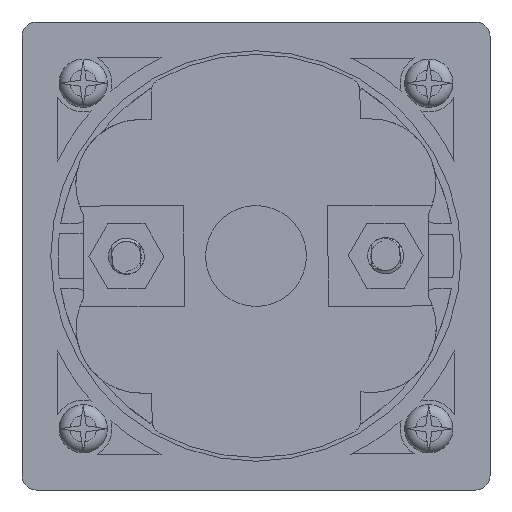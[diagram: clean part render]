
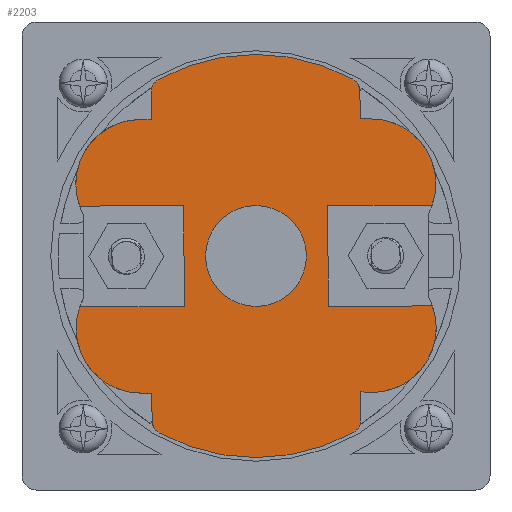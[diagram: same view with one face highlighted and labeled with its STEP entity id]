
A CAD part, front view. The second image highlights one B-rep face of the part: STEP entity #2203.
In plain terms, the highlighted planar face has unit normal (0, -1, 0).
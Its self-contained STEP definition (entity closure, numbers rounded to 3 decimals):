
#852=FACE_BOUND('',#4447,.T.);
#853=FACE_BOUND('',#4448,.T.);
#2203=ADVANCED_FACE('',(#852,#853),#2786,.F.);
#2786=PLANE('',#17414);
#4447=EDGE_LOOP('',(#8955,#8956,#8957,#8958,#8959,#8960,#8961,#8962,#8963,
#8964,#8965,#8966,#8967,#8968,#8969,#8970,#8971,#8972,#8973,#8974,#8975,
#8976,#8977,#8978,#8979));
#4448=EDGE_LOOP('',(#8980));
#4776=CIRCLE('',#16458,2.);
#4778=CIRCLE('',#16461,28.);
#4781=CIRCLE('',#16465,2.);
#4784=CIRCLE('',#16474,2.);
#4786=CIRCLE('',#16477,28.);
#4789=CIRCLE('',#16481,2.);
#5161=CIRCLE('',#17315,9.);
#5164=CIRCLE('',#17321,9.);
#5165=CIRCLE('',#17324,9.);
#5167=CIRCLE('',#17328,8.96);
#5169=CIRCLE('',#17332,9.);
#5188=CIRCLE('',#17404,7.);
#8955=ORIENTED_EDGE('',*,*,#13560,.F.);
#8956=ORIENTED_EDGE('',*,*,#13122,.T.);
#8957=ORIENTED_EDGE('',*,*,#13125,.T.);
#8958=ORIENTED_EDGE('',*,*,#11925,.T.);
#8959=ORIENTED_EDGE('',*,*,#11924,.T.);
#8960=ORIENTED_EDGE('',*,*,#11920,.T.);
#8961=ORIENTED_EDGE('',*,*,#11917,.T.);
#8962=ORIENTED_EDGE('',*,*,#11908,.T.);
#8963=ORIENTED_EDGE('',*,*,#13128,.T.);
#8964=ORIENTED_EDGE('',*,*,#13131,.T.);
#8965=ORIENTED_EDGE('',*,*,#13134,.T.);
#8966=ORIENTED_EDGE('',*,*,#13567,.F.);
#8967=ORIENTED_EDGE('',*,*,#13562,.F.);
#8968=ORIENTED_EDGE('',*,*,#13568,.F.);
#8969=ORIENTED_EDGE('',*,*,#13108,.T.);
#8970=ORIENTED_EDGE('',*,*,#13111,.T.);
#8971=ORIENTED_EDGE('',*,*,#11894,.T.);
#8972=ORIENTED_EDGE('',*,*,#11893,.T.);
#8973=ORIENTED_EDGE('',*,*,#11889,.T.);
#8974=ORIENTED_EDGE('',*,*,#11886,.T.);
#8975=ORIENTED_EDGE('',*,*,#11876,.T.);
#8976=ORIENTED_EDGE('',*,*,#13113,.T.);
#8977=ORIENTED_EDGE('',*,*,#13117,.T.);
#8978=ORIENTED_EDGE('',*,*,#13559,.F.);
#8979=ORIENTED_EDGE('',*,*,#13554,.F.);
#8980=ORIENTED_EDGE('',*,*,#13553,.F.);
#10258=VERTEX_POINT('',#25088);
#10259=VERTEX_POINT('',#25090);
#10264=VERTEX_POINT('',#25103);
#10267=VERTEX_POINT('',#25111);
#10269=VERTEX_POINT('',#25117);
#10272=VERTEX_POINT('',#25125);
#10278=VERTEX_POINT('',#25154);
#10279=VERTEX_POINT('',#25156);
#10284=VERTEX_POINT('',#25168);
#10287=VERTEX_POINT('',#25176);
#10289=VERTEX_POINT('',#25182);
#10292=VERTEX_POINT('',#25190);
#11045=VERTEX_POINT('',#37809);
#11046=VERTEX_POINT('',#37811);
#11048=VERTEX_POINT('',#37819);
#11051=VERTEX_POINT('',#37827);
#11054=VERTEX_POINT('',#37843);
#11055=VERTEX_POINT('',#37845);
#11058=VERTEX_POINT('',#37861);
#11060=VERTEX_POINT('',#37873);
#11062=VERTEX_POINT('',#37879);
#11350=VERTEX_POINT('',#66259);
#11351=VERTEX_POINT('',#66262);
#11352=VERTEX_POINT('',#66263);
#11355=VERTEX_POINT('',#66278);
#11356=VERTEX_POINT('',#66279);
#11876=EDGE_CURVE('',#10259,#10258,#14143,.T.);
#11886=EDGE_CURVE('',#10264,#10259,#4776,.T.);
#11889=EDGE_CURVE('',#10267,#10264,#4778,.T.);
#11893=EDGE_CURVE('',#10269,#10267,#4781,.T.);
#11894=EDGE_CURVE('',#10272,#10269,#14153,.T.);
#11908=EDGE_CURVE('',#10279,#10278,#14165,.T.);
#11917=EDGE_CURVE('',#10284,#10279,#4784,.T.);
#11920=EDGE_CURVE('',#10287,#10284,#4786,.T.);
#11924=EDGE_CURVE('',#10289,#10287,#4789,.T.);
#11925=EDGE_CURVE('',#10292,#10289,#14174,.T.);
#13108=EDGE_CURVE('',#11046,#11045,#5161,.T.);
#13111=EDGE_CURVE('',#11045,#10272,#14816,.T.);
#13113=EDGE_CURVE('',#10258,#11048,#14818,.T.);
#13117=EDGE_CURVE('',#11048,#11051,#5164,.T.);
#13122=EDGE_CURVE('',#11055,#11054,#5165,.T.);
#13125=EDGE_CURVE('',#11054,#10292,#14824,.T.);
#13128=EDGE_CURVE('',#10278,#11058,#5167,.T.);
#13131=EDGE_CURVE('',#11058,#11060,#14825,.T.);
#13134=EDGE_CURVE('',#11060,#11062,#5169,.T.);
#13553=EDGE_CURVE('',#11350,#11350,#5188,.T.);
#13554=EDGE_CURVE('',#11351,#11352,#14978,.T.);
#13559=EDGE_CURVE('',#11352,#11051,#14983,.T.);
#13560=EDGE_CURVE('',#11055,#11351,#14984,.T.);
#13562=EDGE_CURVE('',#11355,#11356,#14986,.T.);
#13567=EDGE_CURVE('',#11356,#11062,#14991,.T.);
#13568=EDGE_CURVE('',#11046,#11355,#14992,.T.);
#14143=LINE('',#25089,#15294);
#14153=LINE('',#25124,#15304);
#14165=LINE('',#25155,#15316);
#14174=LINE('',#25189,#15325);
#14816=LINE('',#37816,#15973);
#14818=LINE('',#37820,#15975);
#14824=LINE('',#37850,#15981);
#14825=LINE('',#37874,#15982);
#14978=LINE('',#66261,#16135);
#14983=LINE('',#66271,#16140);
#14984=LINE('',#66273,#16141);
#14986=LINE('',#66277,#16143);
#14991=LINE('',#66287,#16148);
#14992=LINE('',#66289,#16149);
#15294=VECTOR('',#18103,1.);
#15304=VECTOR('',#18137,1.);
#15316=VECTOR('',#18157,1.);
#15325=VECTOR('',#18190,1.);
#15973=VECTOR('',#20508,1.);
#15975=VECTOR('',#20512,1.);
#15981=VECTOR('',#20534,1.);
#15982=VECTOR('',#20541,1.);
#16135=VECTOR('',#20846,1.);
#16140=VECTOR('',#20853,1.);
#16141=VECTOR('',#20856,1.);
#16143=VECTOR('',#20862,1.);
#16148=VECTOR('',#20869,1.);
#16149=VECTOR('',#20872,1.);
#16458=AXIS2_PLACEMENT_3D('',#25108,#18117,#18118);
#16461=AXIS2_PLACEMENT_3D('',#25114,#18124,#18125);
#16465=AXIS2_PLACEMENT_3D('',#25122,#18133,#18134);
#16474=AXIS2_PLACEMENT_3D('',#25173,#18170,#18171);
#16477=AXIS2_PLACEMENT_3D('',#25179,#18177,#18178);
#16481=AXIS2_PLACEMENT_3D('',#25187,#18186,#18187);
#17315=AXIS2_PLACEMENT_3D('',#37810,#20501,#20502);
#17321=AXIS2_PLACEMENT_3D('',#37828,#20519,#20520);
#17324=AXIS2_PLACEMENT_3D('',#37844,#20527,#20528);
#17328=AXIS2_PLACEMENT_3D('',#37862,#20537,#20538);
#17332=AXIS2_PLACEMENT_3D('',#37880,#20547,#20548);
#17404=AXIS2_PLACEMENT_3D('',#66258,#20842,#20843);
#17414=AXIS2_PLACEMENT_3D('',#66293,#20878,#20879);
#18103=DIRECTION('',(0.003,0.,-1.));
#18117=DIRECTION('',(0.,-1.,0.));
#18118=DIRECTION('',(1.,0.,0.003));
#18124=DIRECTION('',(0.,-1.,0.));
#18125=DIRECTION('',(1.,0.,0.003));
#18133=DIRECTION('',(0.,-1.,0.));
#18134=DIRECTION('',(1.,0.,0.003));
#18137=DIRECTION('',(-0.003,0.,1.));
#18157=DIRECTION('',(-0.003,0.,1.));
#18170=DIRECTION('',(0.,-1.,0.));
#18171=DIRECTION('',(1.,0.,0.003));
#18177=DIRECTION('',(0.,-1.,0.));
#18178=DIRECTION('',(1.,0.,0.003));
#18186=DIRECTION('',(0.,-1.,0.));
#18187=DIRECTION('',(1.,0.,0.003));
#18190=DIRECTION('',(0.003,0.,-1.));
#20501=DIRECTION('',(0.,-1.,0.));
#20502=DIRECTION('',(1.,0.,0.003));
#20508=DIRECTION('',(-1.,0.,-0.003));
#20512=DIRECTION('',(-1.,0.,-0.003));
#20519=DIRECTION('',(0.,-1.,0.));
#20520=DIRECTION('',(-1.,0.,-0.003));
#20527=DIRECTION('',(0.,-1.,0.));
#20528=DIRECTION('',(-0.89,0.,0.456));
#20534=DIRECTION('',(1.,0.,0.003));
#20537=DIRECTION('',(0.,-1.,0.));
#20538=DIRECTION('',(0.,0.,-1.));
#20541=DIRECTION('',(1.,0.,0.003));
#20547=DIRECTION('',(0.,-1.,0.));
#20548=DIRECTION('',(0.,0.,-1.));
#20842=DIRECTION('',(0.,-1.,0.));
#20843=DIRECTION('',(-1.,0.,-0.003));
#20846=DIRECTION('',(-0.003,0.,1.));
#20853=DIRECTION('',(-1.,0.,-0.003));
#20856=DIRECTION('',(1.,0.,0.003));
#20862=DIRECTION('',(0.003,0.,-1.));
#20869=DIRECTION('',(1.,0.,0.003));
#20872=DIRECTION('',(-1.,0.,-0.003));
#20878=DIRECTION('',(0.,1.,0.));
#20879=DIRECTION('',(0.,0.,1.));
#25088=CARTESIAN_POINT('',(-14.549,-54.1,18.963));
#25089=CARTESIAN_POINT('',(-14.558,-54.1,22.761));
#25090=CARTESIAN_POINT('',(-14.558,-54.1,22.761));
#25103=CARTESIAN_POINT('',(-13.525,-54.1,24.517));
#25108=CARTESIAN_POINT('',(-12.558,-54.1,22.766));
#25111=CARTESIAN_POINT('',(13.398,-54.1,24.586));
#25114=CARTESIAN_POINT('',(0.,-54.1,0.));
#25117=CARTESIAN_POINT('',(14.441,-54.1,22.835));
#25122=CARTESIAN_POINT('',(12.441,-54.1,22.83));
#25124=CARTESIAN_POINT('',(14.451,-54.1,19.037));
#25125=CARTESIAN_POINT('',(14.451,-54.1,19.037));
#25154=CARTESIAN_POINT('',(14.548,-54.1,-18.837));
#25155=CARTESIAN_POINT('',(14.558,-54.1,-22.761));
#25156=CARTESIAN_POINT('',(14.558,-54.1,-22.761));
#25168=CARTESIAN_POINT('',(13.525,-54.1,-24.517));
#25173=CARTESIAN_POINT('',(12.558,-54.1,-22.766));
#25176=CARTESIAN_POINT('',(-13.398,-54.1,-24.586));
#25179=CARTESIAN_POINT('',(0.,-54.1,0.));
#25182=CARTESIAN_POINT('',(-14.441,-54.1,-22.835));
#25187=CARTESIAN_POINT('',(-12.441,-54.1,-22.83));
#25189=CARTESIAN_POINT('',(-14.451,-54.1,-19.037));
#25190=CARTESIAN_POINT('',(-14.451,-54.1,-19.037));
#37809=CARTESIAN_POINT('',(15.951,-54.1,19.041));
#37810=CARTESIAN_POINT('',(15.974,-54.1,10.041));
#37811=CARTESIAN_POINT('',(24.467,-54.1,7.063));
#37816=CARTESIAN_POINT('',(15.951,-54.1,19.041));
#37819=CARTESIAN_POINT('',(-16.049,-54.1,18.959));
#37820=CARTESIAN_POINT('',(-14.549,-54.1,18.963));
#37827=CARTESIAN_POINT('',(-24.503,-54.1,6.937));
#37828=CARTESIAN_POINT('',(-16.026,-54.1,9.959));
#37843=CARTESIAN_POINT('',(-15.951,-54.1,-19.041));
#37844=CARTESIAN_POINT('',(-15.974,-54.1,-10.041));
#37845=CARTESIAN_POINT('',(-24.468,-54.1,-7.063));
#37850=CARTESIAN_POINT('',(23.753,-54.1,-18.934));
#37861=CARTESIAN_POINT('',(15.978,-54.1,-18.959));
#37862=CARTESIAN_POINT('',(16.02,-54.1,-9.999));
#37873=CARTESIAN_POINT('',(16.119,-54.1,-18.958));
#37874=CARTESIAN_POINT('',(23.752,-54.1,-18.938));
#37879=CARTESIAN_POINT('',(24.503,-54.1,-6.937));
#37880=CARTESIAN_POINT('',(16.026,-54.1,-9.959));
#66258=CARTESIAN_POINT('',(0.,-54.1,0.));
#66259=CARTESIAN_POINT('',(-7.,-54.1,-0.018));
#66261=CARTESIAN_POINT('',(-9.982,-54.1,-7.026));
#66262=CARTESIAN_POINT('',(-9.982,-54.1,-7.026));
#66263=CARTESIAN_POINT('',(-10.018,-54.1,6.974));
#66271=CARTESIAN_POINT('',(-10.018,-54.1,6.974));
#66273=CARTESIAN_POINT('',(-34.164,-54.1,-7.088));
#66277=CARTESIAN_POINT('',(9.982,-54.1,7.026));
#66278=CARTESIAN_POINT('',(9.982,-54.1,7.026));
#66279=CARTESIAN_POINT('',(10.018,-54.1,-6.974));
#66287=CARTESIAN_POINT('',(10.018,-54.1,-6.974));
#66289=CARTESIAN_POINT('',(34.164,-54.1,7.088));
#66293=CARTESIAN_POINT('',(23.741,-54.1,-14.593));
